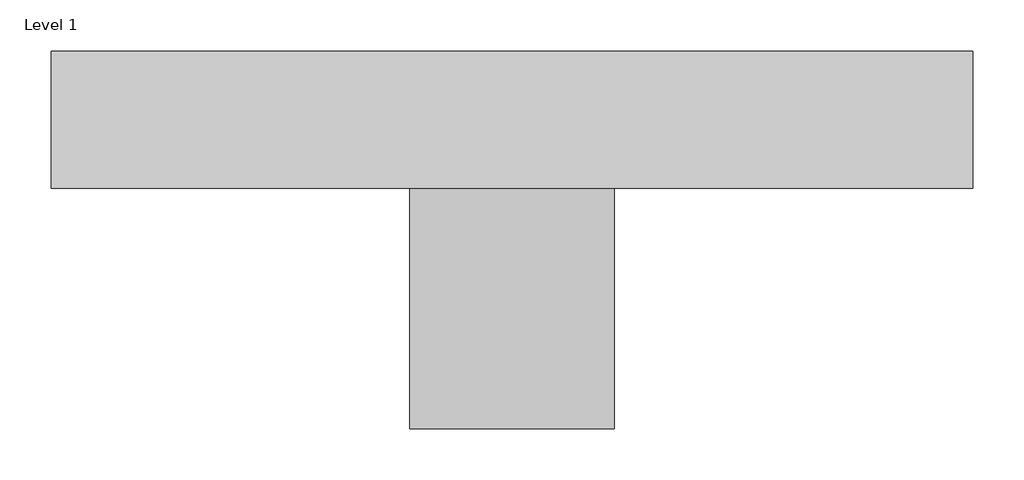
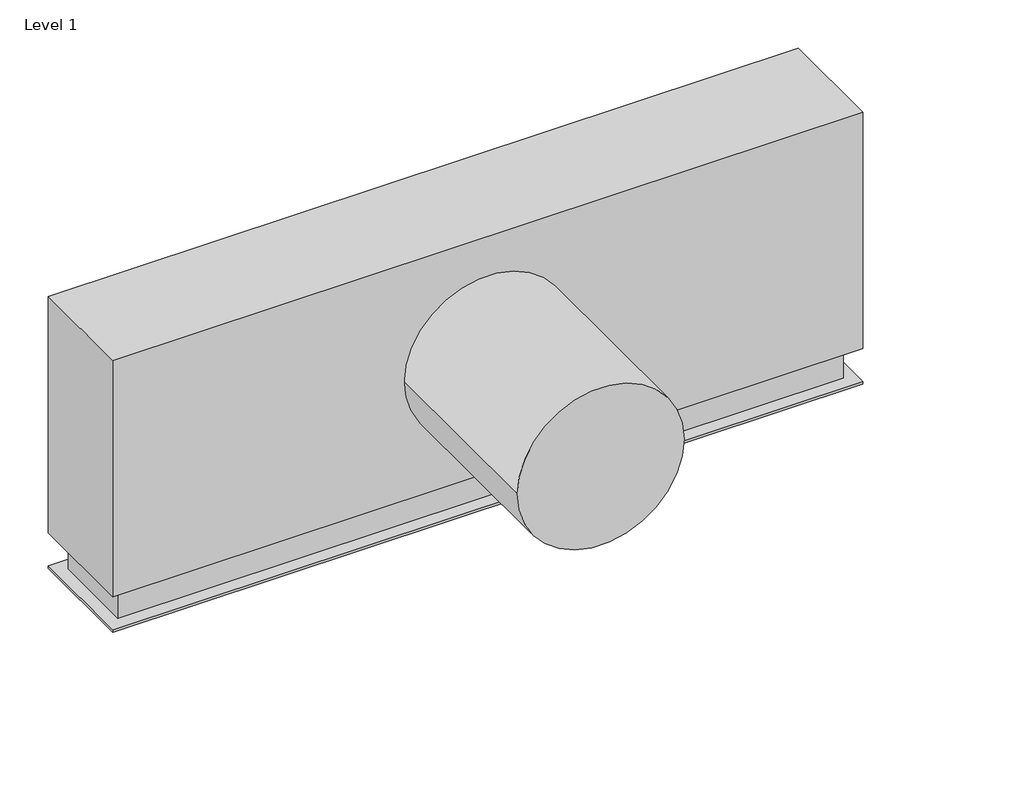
# One storey, incomplete: 1 air terminal.
"""IFC4 building model written with IfcOpenShell, lengths in millimetres."""

from ifc_helpers import new_model, si_unit, origin, place, context, project, spatial, transform, mapped, element, save
from components import csd_25_2_slot_mf_with_plenum_900_long_6d9be44d

model = new_model("IFC4")

# Units and contexts
model_context = context("Model", 3, world=origin())
ifc_project = project(units=[si_unit("LENGTHUNIT", "METRE", prefix="MILLI")], contexts=[model_context])

# Site, building, storey
site = spatial("IfcSite", under=ifc_project)
building = spatial("IfcBuilding", under=site)
storey = spatial("IfcBuildingStorey", under=building, Name="Level 1", Elevation=0.0)

# Air terminal
placement = place(None, origin())
csd_25_2_slot_mf_with_plenum_900_long_shape = csd_25_2_slot_mf_with_plenum_900_long_6d9be44d(model_context)
element("IfcAirTerminal", 1, ObjectType="DC_Holyoake_MEQ_CSD-25-2-MF_Slot_with_CSDAI_Plenum_14 : CSD-25-2 Slot MF with Plenum 900 long", at=placement, inside=storey, context=model_context, shape_type="MappedRepresentation", body=[
    mapped(csd_25_2_slot_mf_with_plenum_900_long_shape, transform((-2854.2023995, 4864.3784977, 0.0), x_axis=(1.0, 0.0, 0.0), y_axis=(0.0, 1.0, 0.0), z_axis=(0.0, 0.0, 1.0))),
])

save(model, "model.ifc")
